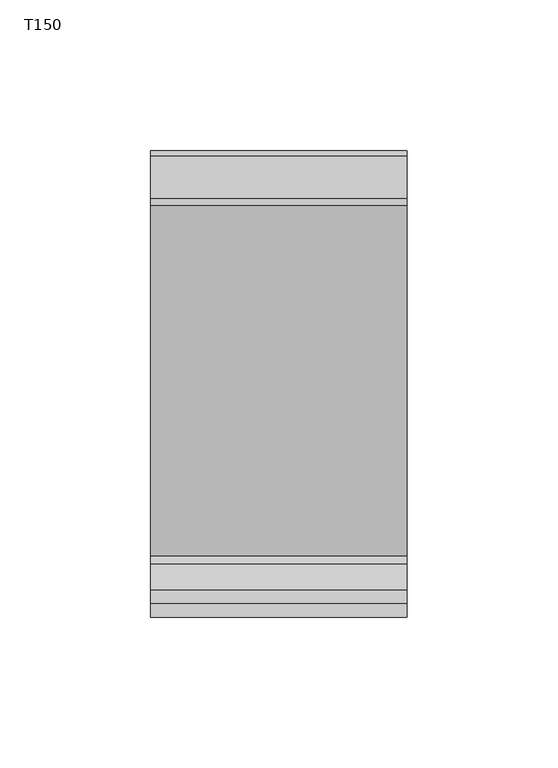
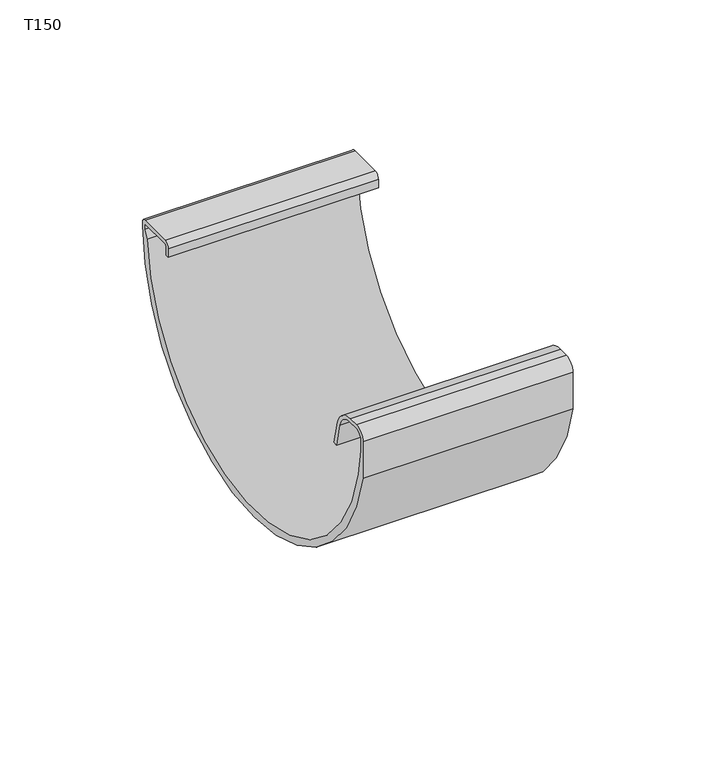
"""IFC4 building model written with IfcOpenShell, lengths in millimetres: proxy geometry, GROVIK_Gutter_Joint : T150."""

from ifc_helpers import new_model, si_unit, point, frame, frame_2d, origin, place, context, project, spatial, polyline, circle_curve, trimmed, segment, composite_curve, outline, extrude, source, transform, mapped, element, save


def t150_54225c01(model_context):
    return source(origin(), model_context, "Body", "SweptSolid", [
        extrude(outline(composite_curve([segment(trimmed(circle_curve(frame_2d((-142.5, -5.1006666)), 7.5006666), [point((-135.206075, -3.3517645))], [point((-142.5, 2.4))], True, "CARTESIAN"), True, "CONTINUOUS"), segment(polyline([(-142.5, 2.4), (-147.0, 2.4)]), True, "CONTINUOUS"), segment(trimmed(circle_curve(frame_2d((-147.0, -0.6)), 3.0), [point((-147.0, 2.4))], [point((-150.0, -0.6))], True, "CARTESIAN"), True, "CONTINUOUS"), segment(polyline([(-150.0, -0.6), (-150.0, -5.2006666), (-148.4372161, -16.2320172)]), True, "CONTINUOUS"), segment(trimmed(circle_curve(frame_2d((-74.995059, -1.03)), 74.9990118), [point((-148.4372161, -16.2320172))], [point((-0.1426487, -5.717051))], True, "CARTESIAN"), True, "CONTINUOUS"), segment(polyline([(-0.1426487, -5.717051), (1.4965206, -2.5), (1.4965206, 0.0), (-12.7034794, 0.0)]), True, "CONTINUOUS"), segment(trimmed(circle_curve(frame_2d((-12.7034794, -0.8)), 0.8), [point((-12.7034794, 0.0))], [point((-13.5034794, -0.8))], True, "CARTESIAN"), True, "CONTINUOUS"), segment(polyline([(-13.5034794, -0.8), (-13.5034794, -4.5), (-15.0034794, -4.5), (-15.0034794, -0.8)]), True, "CONTINUOUS"), segment(trimmed(circle_curve(frame_2d((-12.7034794, -0.8)), 2.3), [point((-15.0034794, -0.8))], [point((-12.7034794, 1.5))], False, "CARTESIAN"), True, "CONTINUOUS"), segment(polyline([(-12.7034794, 1.5), (1.3979945, 1.5)]), True, "CONTINUOUS"), segment(trimmed(circle_curve(frame_2d((1.4965206, 0.0)), 1.5032323), [point((1.3979945, 1.5))], [point((2.9997529, 0.0))], False, "CARTESIAN"), True, "CONTINUOUS"), segment(polyline([(2.9997529, 0.0), (2.9997529, -1.8394162)]), True, "CONTINUOUS"), segment(trimmed(circle_curve(frame_2d((-74.995059, -1.03)), 77.9990118), [point((2.9997529, -1.8394162))], [point((-151.5, -16.2234142))], False, "CARTESIAN"), True, "CONTINUOUS"), segment(polyline([(-151.5, -16.2234142), (-151.5, -0.6)]), True, "CONTINUOUS"), segment(trimmed(circle_curve(frame_2d((-147.0, -0.6)), 4.5), [point((-151.5, -0.6))], [point((-147.0, 3.9))], False, "CARTESIAN"), True, "CONTINUOUS"), segment(polyline([(-147.0, 3.9), (-142.5, 3.9)]), True, "CONTINUOUS"), segment(trimmed(circle_curve(frame_2d((-142.5, -5.1006666)), 9.0006666), [point((-142.5, 3.9))], [point((-133.7474197, -3.0020151))], False, "CARTESIAN"), True, "CONTINUOUS"), segment(polyline([(-133.7474197, -3.0020151), (-131.3691242, -12.9208714), (-132.8277795, -13.2706208), (-135.206075, -3.3517645)]), True, "CONTINUOUS")], self_intersect=False)), frame((-42.5, 0.0, 0.0), z_axis=(1.0, 0.0, 0.0), x_axis=(0.0, 1.0, 0.0)), (0.0, 0.0, 1.0), 85.0),
    ])


if __name__ == "__main__":
    model = new_model("IFC4")
    model_context = context("Model", 3, world=origin())
    ifc_project = project(units=[si_unit("LENGTHUNIT", "METRE", prefix="MILLI")], contexts=[model_context])
    site = spatial("IfcSite", under=ifc_project)
    building = spatial("IfcBuilding", under=site)
    placement = place(None, origin())
    t150_shape = t150_54225c01(model_context)
    element("IfcBuildingElementProxy", 1, Name="GROVIK_Gutter_Joint : T150", ObjectType="GROVIK_Gutter_Joint : T150", at=placement, inside=building, context=model_context, shape_type="MappedRepresentation", body=[
        mapped(t150_shape, transform((0.0, 0.0, 0.0), x_axis=(1.0, 0.0, 0.0), y_axis=(0.0, 1.0, 0.0), z_axis=(0.0, 0.0, 1.0))),
    ])
    save(model, "model.ifc")
